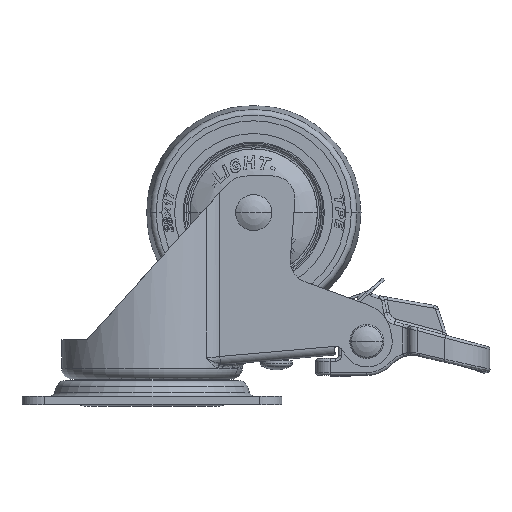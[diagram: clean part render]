
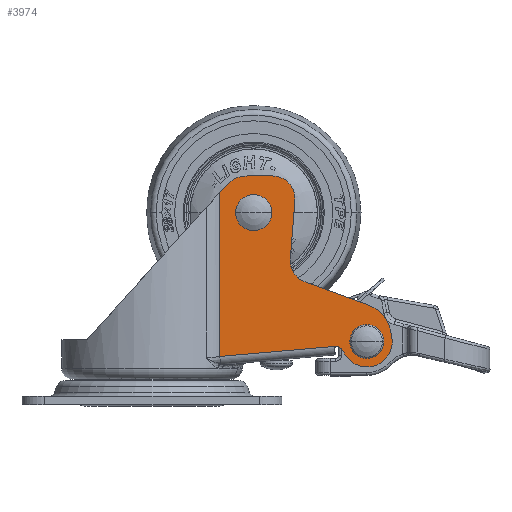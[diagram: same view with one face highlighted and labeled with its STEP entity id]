
A CAD part, front view. The second image highlights one B-rep face of the part: STEP entity #3974.
In plain terms, the highlighted planar face has unit normal (0, -1, 0).
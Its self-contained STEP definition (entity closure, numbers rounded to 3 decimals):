
#2247=CARTESIAN_POINT('',(18.,-12.,29.5));
#2248=DIRECTION('',(0.,1.,0.));
#2249=DIRECTION('',(1.,0.,0.));
#2250=AXIS2_PLACEMENT_3D('',#2247,#2248,#2249);
#2252=CARTESIAN_POINT('',(18.,-12.,29.5));
#2253=DIRECTION('',(0.,1.,0.));
#2254=DIRECTION('',(-1.,0.,0.));
#2255=AXIS2_PLACEMENT_3D('',#2252,#2253,#2254);
#2257=CARTESIAN_POINT('',(38.,-12.,6.7));
#2258=DIRECTION('',(0.,1.,0.));
#2259=DIRECTION('',(1.,0.,0.));
#2260=AXIS2_PLACEMENT_3D('',#2257,#2258,#2259);
#2262=CARTESIAN_POINT('',(38.,-12.,6.7));
#2263=DIRECTION('',(0.,1.,0.));
#2264=DIRECTION('',(-1.,0.,0.));
#2265=AXIS2_PLACEMENT_3D('',#2262,#2263,#2264);
#2267=CARTESIAN_POINT('',(32.81,-11.999,5.806));
#2268=CARTESIAN_POINT('',(32.734,-11.999,5.823));
#2269=CARTESIAN_POINT('',(32.583,-12.,5.844));
#2270=CARTESIAN_POINT('',(32.429,-12.,5.843));
#2271=CARTESIAN_POINT('',(32.352,-12.,5.836));
#2273=DIRECTION('',(0.,0.,1.));
#2274=VECTOR('',#2273,29.03);
#2275=CARTESIAN_POINT('',(12.,-12.,4.056));
#2276=LINE('',#2275,#2274);
#2277=DIRECTION('',(0.669,0.,0.743));
#2278=VECTOR('',#2277,1.695);
#2279=CARTESIAN_POINT('',(12.,-12.,33.086));
#2280=LINE('',#2279,#2278);
#2281=CARTESIAN_POINT('',(16.85,-12.,31.));
#2282=DIRECTION('',(0.,-1.,0.));
#2283=DIRECTION('',(0.,0.,1.));
#2284=AXIS2_PLACEMENT_3D('',#2281,#2282,#2283);
#2286=DIRECTION('',(-1.,0.,0.));
#2287=VECTOR('',#2286,4.447);
#2288=CARTESIAN_POINT('',(21.297,-12.,36.));
#2289=LINE('',#2288,#2287);
#2290=CARTESIAN_POINT('',(21.297,-12.,32.));
#2291=DIRECTION('',(0.,-1.,0.));
#2292=DIRECTION('',(0.997,0.,-0.078));
#2293=AXIS2_PLACEMENT_3D('',#2290,#2291,#2292);
#2295=DIRECTION('',(0.078,0.,0.997));
#2296=VECTOR('',#2295,10.399);
#2297=CARTESIAN_POINT('',(24.468,-12.,21.32));
#2298=LINE('',#2297,#2296);
#2299=DIRECTION('',(-0.94,0.,0.342));
#2300=VECTOR('',#2299,11.988);
#2301=CARTESIAN_POINT('',(38.353,-12.,13.147));
#2302=LINE('',#2301,#2300);
#2303=CARTESIAN_POINT('',(36.301,-12.,7.509));
#2304=DIRECTION('',(0.,-1.,0.));
#2305=DIRECTION('',(0.979,0.,0.202));
#2306=AXIS2_PLACEMENT_3D('',#2303,#2304,#2305);
#2308=DIRECTION('',(-0.202,0.,0.979));
#2309=VECTOR('',#2308,1.135);
#2310=CARTESIAN_POINT('',(42.407,-12.,7.61));
#2311=LINE('',#2310,#2309);
#2324=CARTESIAN_POINT('',(32.483,-12.,4.342));
#2325=DIRECTION('',(0.,1.,0.));
#2326=DIRECTION('',(0.218,0.,0.976));
#2327=AXIS2_PLACEMENT_3D('',#2324,#2325,#2326);
#2710=DIRECTION('',(0.996,0.,0.087));
#2711=VECTOR('',#2710,20.43);
#2712=CARTESIAN_POINT('',(12.,-12.,4.056));
#2713=LINE('',#2712,#2711);
#3209=CARTESIAN_POINT('',(38.,-12.,6.7));
#3210=DIRECTION('',(0.,-1.,0.));
#3211=DIRECTION('',(-0.92,0.,-0.393));
#3212=AXIS2_PLACEMENT_3D('',#3209,#3210,#3211);
#3331=CARTESIAN_POINT('',(28.456,-12.,21.006));
#3332=DIRECTION('',(0.,1.,0.));
#3333=DIRECTION('',(-0.342,0.,-0.94));
#3334=AXIS2_PLACEMENT_3D('',#3331,#3332,#3333);
#3379=CARTESIAN_POINT('',(12.,-12.,4.056));
#3381=CARTESIAN_POINT('',(12.,-12.,33.086));
#3515=CARTESIAN_POINT('',(42.407,-12.,7.61));
#3517=VERTEX_POINT('',#3515);
#3539=CARTESIAN_POINT('',(21.1,-12.,29.5));
#3540=CARTESIAN_POINT('',(14.9,-12.,29.5));
#3541=VERTEX_POINT('',#3539);
#3542=VERTEX_POINT('',#3540);
#3543=CARTESIAN_POINT('',(40.05,-12.,6.7));
#3544=CARTESIAN_POINT('',(35.95,-12.,6.7));
#3545=VERTEX_POINT('',#3543);
#3546=VERTEX_POINT('',#3544);
#3573=CARTESIAN_POINT('',(27.088,-12.,17.247));
#3575=VERTEX_POINT('',#3573);
#3577=CARTESIAN_POINT('',(24.468,-12.,21.32));
#3579=VERTEX_POINT('',#3577);
#3589=CARTESIAN_POINT('',(25.284,-12.,31.686));
#3590=CARTESIAN_POINT('',(21.297,-12.,36.));
#3591=VERTEX_POINT('',#3589);
#3592=VERTEX_POINT('',#3590);
#3605=CARTESIAN_POINT('',(16.85,-12.,36.));
#3606=VERTEX_POINT('',#3605);
#3614=CARTESIAN_POINT('',(33.862,-12.,4.931));
#3616=VERTEX_POINT('',#3614);
#3630=VERTEX_POINT('',#3379);
#3662=VERTEX_POINT('',#3381);
#3669=CARTESIAN_POINT('',(42.177,-12.,8.722));
#3670=CARTESIAN_POINT('',(38.353,-12.,13.147));
#3671=VERTEX_POINT('',#3669);
#3672=VERTEX_POINT('',#3670);
#3685=CARTESIAN_POINT('',(13.134,-12.,34.346));
#3686=VERTEX_POINT('',#3685);
#3695=CARTESIAN_POINT('',(32.81,-12.,5.806));
#3696=VERTEX_POINT('',#3695);
#3702=VERTEX_POINT('',#2271);
#3931=CARTESIAN_POINT('',(55.,-12.,1.));
#3932=DIRECTION('',(0.,-1.,0.));
#3933=DIRECTION('',(-1.,0.,0.));
#3934=AXIS2_PLACEMENT_3D('',#3931,#3932,#3933);
#3935=PLANE('',#3934);
#3937=ORIENTED_EDGE('',*,*,#3936,.F.);
#3939=ORIENTED_EDGE('',*,*,#3938,.T.);
#3941=ORIENTED_EDGE('',*,*,#3940,.F.);
#3943=ORIENTED_EDGE('',*,*,#3942,.T.);
#3945=ORIENTED_EDGE('',*,*,#3944,.T.);
#3947=ORIENTED_EDGE('',*,*,#3946,.F.);
#3949=ORIENTED_EDGE('',*,*,#3948,.F.);
#3951=ORIENTED_EDGE('',*,*,#3950,.F.);
#3953=ORIENTED_EDGE('',*,*,#3952,.F.);
#3955=ORIENTED_EDGE('',*,*,#3954,.F.);
#3957=ORIENTED_EDGE('',*,*,#3956,.F.);
#3959=ORIENTED_EDGE('',*,*,#3958,.F.);
#3961=ORIENTED_EDGE('',*,*,#3960,.F.);
#3963=ORIENTED_EDGE('',*,*,#3962,.F.);
#3964=EDGE_LOOP('',(#3937,#3939,#3941,#3943,#3945,#3947,#3949,#3951,#3953,#3955,
#3957,#3959,#3961,#3963));
#3965=FACE_OUTER_BOUND('',#3964,.F.);
#3966=ORIENTED_EDGE('',*,*,#3894,.F.);
#3967=ORIENTED_EDGE('',*,*,#3922,.F.);
#3968=EDGE_LOOP('',(#3966,#3967));
#3969=FACE_BOUND('',#3968,.F.);
#3970=ORIENTED_EDGE('',*,*,#3789,.F.);
#3971=ORIENTED_EDGE('',*,*,#3818,.F.);
#3972=EDGE_LOOP('',(#3970,#3971));
#3973=FACE_BOUND('',#3972,.F.);
#2251=CIRCLE('',#2250,3.1);
#2256=CIRCLE('',#2255,3.1);
#2261=CIRCLE('',#2260,2.05);
#2266=CIRCLE('',#2265,2.05);
#2272=B_SPLINE_CURVE_WITH_KNOTS('',3,(#2267,#2268,#2269,#2270,#2271),
.UNSPECIFIED.,.F.,.F.,(4,1,4),(0.,0.5,1.),.UNSPECIFIED.);
#2285=CIRCLE('',#2284,5.);
#2294=CIRCLE('',#2293,4.);
#2307=CIRCLE('',#2306,6.);
#2328=CIRCLE('',#2327,1.5);
#3213=CIRCLE('',#3212,4.5);
#3335=CIRCLE('',#3334,4.);
#3789=EDGE_CURVE('',#3541,#3542,#2251,.T.);
#3818=EDGE_CURVE('',#3542,#3541,#2256,.T.);
#3894=EDGE_CURVE('',#3545,#3546,#2261,.T.);
#3922=EDGE_CURVE('',#3546,#3545,#2266,.T.);
#3936=EDGE_CURVE('',#3696,#3616,#2328,.T.);
#3938=EDGE_CURVE('',#3696,#3702,#2272,.T.);
#3940=EDGE_CURVE('',#3630,#3702,#2713,.T.);
#3942=EDGE_CURVE('',#3630,#3662,#2276,.T.);
#3944=EDGE_CURVE('',#3662,#3686,#2280,.T.);
#3946=EDGE_CURVE('',#3606,#3686,#2285,.T.);
#3948=EDGE_CURVE('',#3592,#3606,#2289,.T.);
#3950=EDGE_CURVE('',#3591,#3592,#2294,.T.);
#3952=EDGE_CURVE('',#3579,#3591,#2298,.T.);
#3954=EDGE_CURVE('',#3575,#3579,#3335,.T.);
#3956=EDGE_CURVE('',#3672,#3575,#2302,.T.);
#3958=EDGE_CURVE('',#3671,#3672,#2307,.T.);
#3960=EDGE_CURVE('',#3517,#3671,#2311,.T.);
#3962=EDGE_CURVE('',#3616,#3517,#3213,.T.);
#3974=ADVANCED_FACE('',(#3965,#3969,#3973),#3935,.T.);
